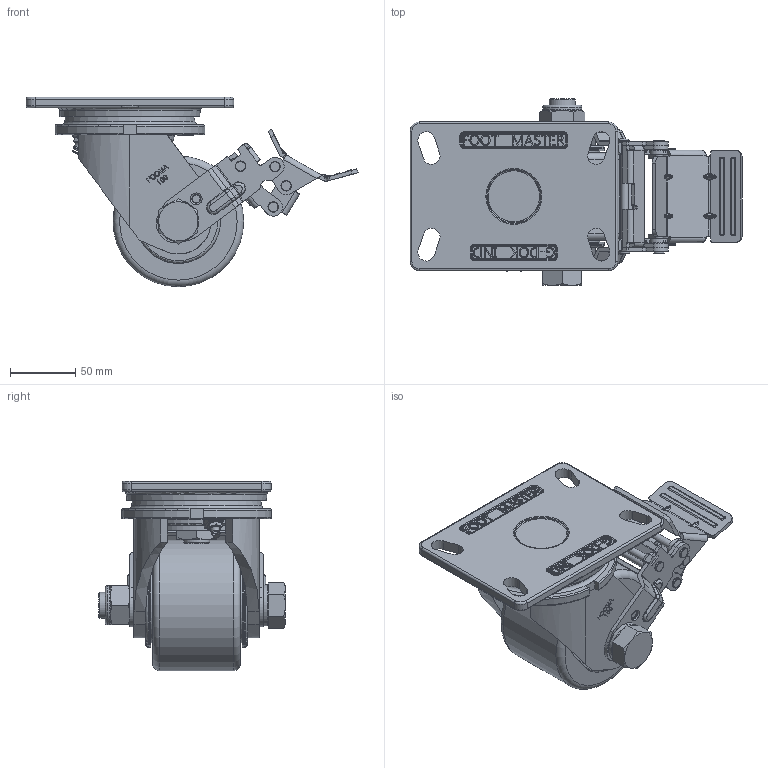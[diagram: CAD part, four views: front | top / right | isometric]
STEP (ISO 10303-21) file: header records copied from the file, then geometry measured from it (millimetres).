
FILE_DESCRIPTION(/* description */ (''),/* implementation_level */ '2;1');
FILE_NAME(/* name */ '\\192.168.10.38\지덕공유\1.기술연구소\손동원\GF-SERIES\3D\GF-100-BSF-MCD.stp',/* time_stamp */ '2023-07-25T13:59:28+09:00',/* author */ ('admin'),/* organization */ (''),/* preprocessor_version */ 'ST-DEVELOPER v18.1',/* originating_system */ 'Autodesk Inventor 2021',/* authorisation */ '');
FILE_SCHEMA (('AUTOMOTIVE_DESIGN { 1 0 10303 214 3 1 1 }'));
Length unit declared in the file: millimetre
Products named in the file (1): GF-100-BSF-MCD
Bounding box: 254.17 x 143 x 145 mm (x, y, z)
Volume: 1127138.3 mm3; surface area: 172796 mm2
Topology: 10 solids, 10 shells, 1816 faces, 4723 edges, 2989 vertices
Faces by surface type: plane 632, bspline 529, cylinder 456, torus 128, cone 55, sphere 16
Full cylindrical faces by diameter (mm): 4 x4, 6 x5, 6.2 x18, 7 x2, 8 x8, 9.7 x2, 10 x2, 20 x5, 20.2 x2, 25 x2, 30 x1, 57 x2, 59 x1, 64.519 x2, 100 x1
Entity records: 66242 total; most frequent: CARTESIAN_POINT 24309, ORIENTED_EDGE 9390, DIRECTION 7671, EDGE_CURVE 4695, VERTEX_POINT 2991, AXIS2_PLACEMENT_3D 2696, LINE 2279, VECTOR 2279
